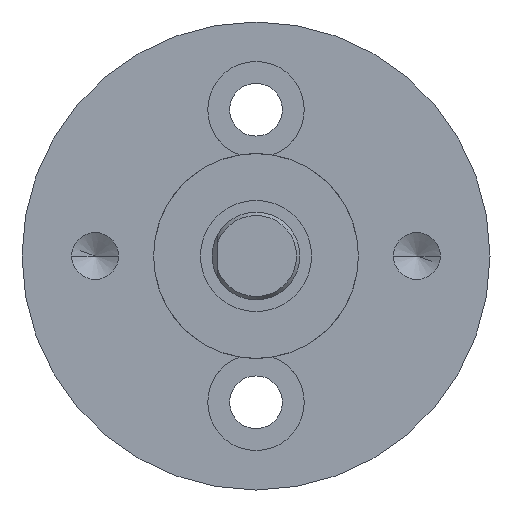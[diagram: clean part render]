
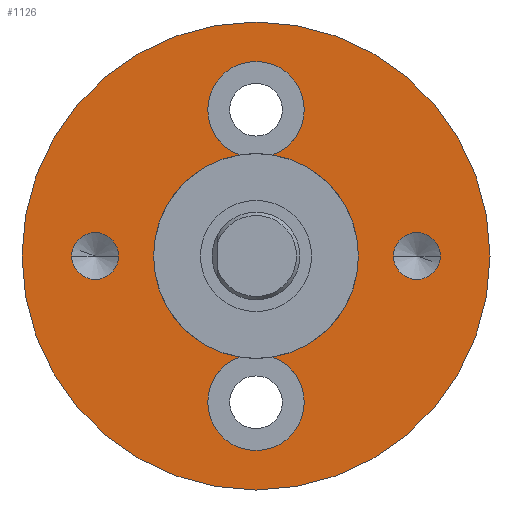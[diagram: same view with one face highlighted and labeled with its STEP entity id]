
A CAD part, left-side view. The second image highlights one B-rep face of the part: STEP entity #1126.
In plain terms, the highlighted planar face has unit normal (-1, 0, 0).
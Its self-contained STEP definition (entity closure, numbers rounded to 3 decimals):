
#101=CARTESIAN_POINT('',(0.,0.,0.));
#102=DIRECTION('',(1.,0.,0.));
#103=DIRECTION('',(0.,1.,0.));
#104=AXIS2_PLACEMENT_3D('',#101,#102,#103);
#109=CARTESIAN_POINT('',(0.,0.,0.));
#110=DIRECTION('',(-1.,0.,0.));
#111=DIRECTION('',(0.,1.,0.));
#112=AXIS2_PLACEMENT_3D('',#109,#110,#111);
#117=CARTESIAN_POINT('',(0.,0.,5.));
#118=DIRECTION('',(-1.,0.,0.));
#119=DIRECTION('',(0.,-1.,0.));
#120=AXIS2_PLACEMENT_3D('',#117,#118,#119);
#125=CARTESIAN_POINT('',(0.,0.,5.));
#126=DIRECTION('',(-1.,0.,0.));
#127=DIRECTION('',(0.,1.,0.));
#128=AXIS2_PLACEMENT_3D('',#125,#126,#127);
#133=CARTESIAN_POINT('',(0.,0.,-5.));
#134=DIRECTION('',(-1.,0.,0.));
#135=DIRECTION('',(0.,0.347,0.938));
#136=AXIS2_PLACEMENT_3D('',#133,#134,#135);
#141=CARTESIAN_POINT('',(0.,0.,-5.));
#142=DIRECTION('',(-1.,0.,0.));
#143=DIRECTION('',(0.,1.,0.));
#144=AXIS2_PLACEMENT_3D('',#141,#142,#143);
#149=CARTESIAN_POINT('',(0.,0.,-5.));
#150=DIRECTION('',(-1.,0.,0.));
#151=DIRECTION('',(0.,-1.,0.));
#152=AXIS2_PLACEMENT_3D('',#149,#150,#151);
#157=CARTESIAN_POINT('',(0.,0.,5.));
#158=DIRECTION('',(-1.,0.,0.));
#159=DIRECTION('',(0.,-0.347,-0.938));
#160=AXIS2_PLACEMENT_3D('',#157,#158,#159);
#165=CARTESIAN_POINT('',(0.,5.5,0.));
#166=DIRECTION('',(-1.,0.,0.));
#167=DIRECTION('',(0.,1.,0.));
#168=AXIS2_PLACEMENT_3D('',#165,#166,#167);
#173=CARTESIAN_POINT('',(0.,5.5,0.));
#174=DIRECTION('',(-1.,0.,0.));
#175=DIRECTION('',(0.,-1.,0.));
#176=AXIS2_PLACEMENT_3D('',#173,#174,#175);
#181=CARTESIAN_POINT('',(0.,-5.5,0.));
#182=DIRECTION('',(-1.,0.,0.));
#183=DIRECTION('',(0.,-1.,0.));
#184=AXIS2_PLACEMENT_3D('',#181,#182,#183);
#189=CARTESIAN_POINT('',(0.,-5.5,0.));
#190=DIRECTION('',(-1.,0.,0.));
#191=DIRECTION('',(0.,1.,0.));
#192=AXIS2_PLACEMENT_3D('',#189,#190,#191);
#591=CARTESIAN_POINT('',(0.,0.,0.));
#592=DIRECTION('',(-1.,0.,0.));
#593=DIRECTION('',(0.,1.,0.));
#594=AXIS2_PLACEMENT_3D('',#591,#592,#593);
#613=CARTESIAN_POINT('',(0.,0.,0.));
#614=DIRECTION('',(-1.,0.,0.));
#615=DIRECTION('',(0.,-0.164,-0.987));
#616=AXIS2_PLACEMENT_3D('',#613,#614,#615);
#629=CARTESIAN_POINT('',(0.,0.,0.));
#630=DIRECTION('',(1.,0.,0.));
#631=DIRECTION('',(0.,-0.164,0.987));
#632=AXIS2_PLACEMENT_3D('',#629,#630,#631);
#637=CARTESIAN_POINT('',(0.,0.,0.));
#638=DIRECTION('',(1.,0.,0.));
#639=DIRECTION('',(0.,1.,0.));
#640=AXIS2_PLACEMENT_3D('',#637,#638,#639);
#922=CARTESIAN_POINT('',(0.,8.,0.));
#924=VERTEX_POINT('',#922);
#926=CARTESIAN_POINT('',(0.,-8.,0.));
#928=VERTEX_POINT('',#926);
#941=CARTESIAN_POINT('',(0.,1.65,-5.));
#942=CARTESIAN_POINT('',(0.,-1.65,-5.));
#943=VERTEX_POINT('',#941);
#944=VERTEX_POINT('',#942);
#945=CARTESIAN_POINT('',(0.,-0.573,-3.453));
#946=VERTEX_POINT('',#945);
#955=CARTESIAN_POINT('',(0.,-1.65,5.));
#956=CARTESIAN_POINT('',(0.,1.65,5.));
#957=VERTEX_POINT('',#955);
#958=VERTEX_POINT('',#956);
#959=CARTESIAN_POINT('',(0.,0.573,3.453));
#960=VERTEX_POINT('',#959);
#967=CARTESIAN_POINT('',(0.,6.3,0.));
#968=CARTESIAN_POINT('',(0.,4.7,0.));
#969=VERTEX_POINT('',#967);
#970=VERTEX_POINT('',#968);
#977=CARTESIAN_POINT('',(0.,-6.3,0.));
#978=CARTESIAN_POINT('',(0.,-4.7,0.));
#979=VERTEX_POINT('',#977);
#980=VERTEX_POINT('',#978);
#985=CARTESIAN_POINT('',(0.,3.5,0.));
#987=VERTEX_POINT('',#985);
#993=CARTESIAN_POINT('',(0.,-3.5,0.));
#995=VERTEX_POINT('',#993);
#1005=CARTESIAN_POINT('',(0.,0.573,-3.453));
#1006=VERTEX_POINT('',#1005);
#1007=CARTESIAN_POINT('',(0.,-0.573,3.453));
#1008=VERTEX_POINT('',#1007);
#1083=CARTESIAN_POINT('',(0.,0.,0.));
#1084=DIRECTION('',(1.,0.,0.));
#1085=DIRECTION('',(0.,-1.,0.));
#1086=AXIS2_PLACEMENT_3D('',#1083,#1084,#1085);
#1087=PLANE('',#1086);
#1088=ORIENTED_EDGE('',*,*,#1064,.T.);
#1089=ORIENTED_EDGE('',*,*,#1075,.F.);
#1090=EDGE_LOOP('',(#1088,#1089));
#1091=FACE_OUTER_BOUND('',#1090,.F.);
#1093=ORIENTED_EDGE('',*,*,#1092,.T.);
#1095=ORIENTED_EDGE('',*,*,#1094,.T.);
#1097=ORIENTED_EDGE('',*,*,#1096,.F.);
#1099=ORIENTED_EDGE('',*,*,#1098,.T.);
#1101=ORIENTED_EDGE('',*,*,#1100,.T.);
#1103=ORIENTED_EDGE('',*,*,#1102,.T.);
#1105=ORIENTED_EDGE('',*,*,#1104,.T.);
#1107=ORIENTED_EDGE('',*,*,#1106,.T.);
#1109=ORIENTED_EDGE('',*,*,#1108,.F.);
#1111=ORIENTED_EDGE('',*,*,#1110,.T.);
#1112=EDGE_LOOP('',(#1093,#1095,#1097,#1099,#1101,#1103,#1105,#1107,#1109,
#1111));
#1113=FACE_BOUND('',#1112,.F.);
#1115=ORIENTED_EDGE('',*,*,#1114,.T.);
#1117=ORIENTED_EDGE('',*,*,#1116,.T.);
#1118=EDGE_LOOP('',(#1115,#1117));
#1119=FACE_BOUND('',#1118,.F.);
#1121=ORIENTED_EDGE('',*,*,#1120,.T.);
#1123=ORIENTED_EDGE('',*,*,#1122,.T.);
#1124=EDGE_LOOP('',(#1121,#1123));
#1125=FACE_BOUND('',#1124,.F.);
#1126=ADVANCED_FACE('',(#1091,#1113,#1119,#1125),#1087,.F.);
#105=CIRCLE('',#104,8.);
#113=CIRCLE('',#112,8.);
#121=CIRCLE('',#120,1.65);
#129=CIRCLE('',#128,1.65);
#137=CIRCLE('',#136,1.65);
#145=CIRCLE('',#144,1.65);
#153=CIRCLE('',#152,1.65);
#161=CIRCLE('',#160,1.65);
#169=CIRCLE('',#168,0.8);
#177=CIRCLE('',#176,0.8);
#185=CIRCLE('',#184,0.8);
#193=CIRCLE('',#192,0.8);
#595=CIRCLE('',#594,3.5);
#617=CIRCLE('',#616,3.5);
#633=CIRCLE('',#632,3.5);
#641=CIRCLE('',#640,3.5);
#1064=EDGE_CURVE('',#924,#928,#105,.T.);
#1075=EDGE_CURVE('',#924,#928,#113,.T.);
#1092=EDGE_CURVE('',#957,#958,#121,.T.);
#1094=EDGE_CURVE('',#958,#960,#129,.T.);
#1096=EDGE_CURVE('',#987,#960,#641,.T.);
#1098=EDGE_CURVE('',#987,#1006,#595,.T.);
#1100=EDGE_CURVE('',#1006,#943,#137,.T.);
#1102=EDGE_CURVE('',#943,#944,#145,.T.);
#1104=EDGE_CURVE('',#944,#946,#153,.T.);
#1106=EDGE_CURVE('',#946,#995,#617,.T.);
#1108=EDGE_CURVE('',#1008,#995,#633,.T.);
#1110=EDGE_CURVE('',#1008,#957,#161,.T.);
#1114=EDGE_CURVE('',#969,#970,#169,.T.);
#1116=EDGE_CURVE('',#970,#969,#177,.T.);
#1120=EDGE_CURVE('',#979,#980,#185,.T.);
#1122=EDGE_CURVE('',#980,#979,#193,.T.);
